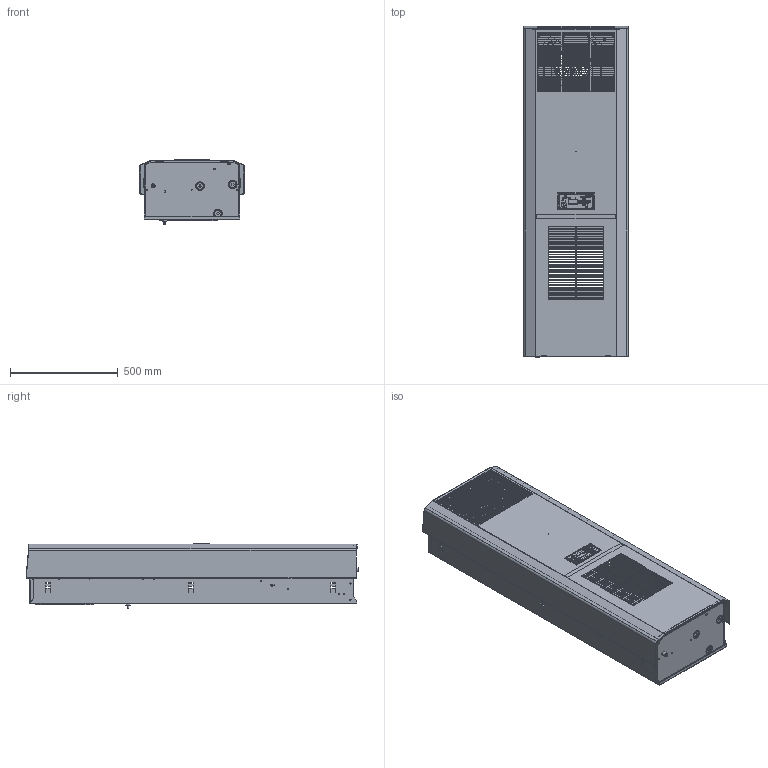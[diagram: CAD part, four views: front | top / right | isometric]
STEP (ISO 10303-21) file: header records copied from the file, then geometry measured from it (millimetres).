
FILE_DESCRIPTION (( 'STEP AP203' ), '1' );
FILE_NAME ('30442-970.STEP', '2021-11-19T13:49:17', ( '' ), ( '' ), 'SwSTEP 2.0', 'SolidWorks 2021', '' );
FILE_SCHEMA (( 'CONFIG_CONTROL_DESIGN' ));
Products named in the file (1): 30442-970
Bounding box: 485 x 1542.04 x 302.29 mm (x, y, z)
Volume: 3304290.6 mm3; surface area: 5805030.9 mm2
Topology: 17 solids, 18 shells, 4952 faces, 13682 edges, 8870 vertices
Faces by surface type: plane 3009, cylinder 1266, bspline 457, torus 156, cone 64
Entity records: 188193 total; most frequent: CARTESIAN_POINT 61548, ORIENTED_EDGE 27364, DIRECTION 24100, EDGE_CURVE 13682, VECTOR 9412, LINE 9412, VERTEX_POINT 8870, AXIS2_PLACEMENT_3D 7344
